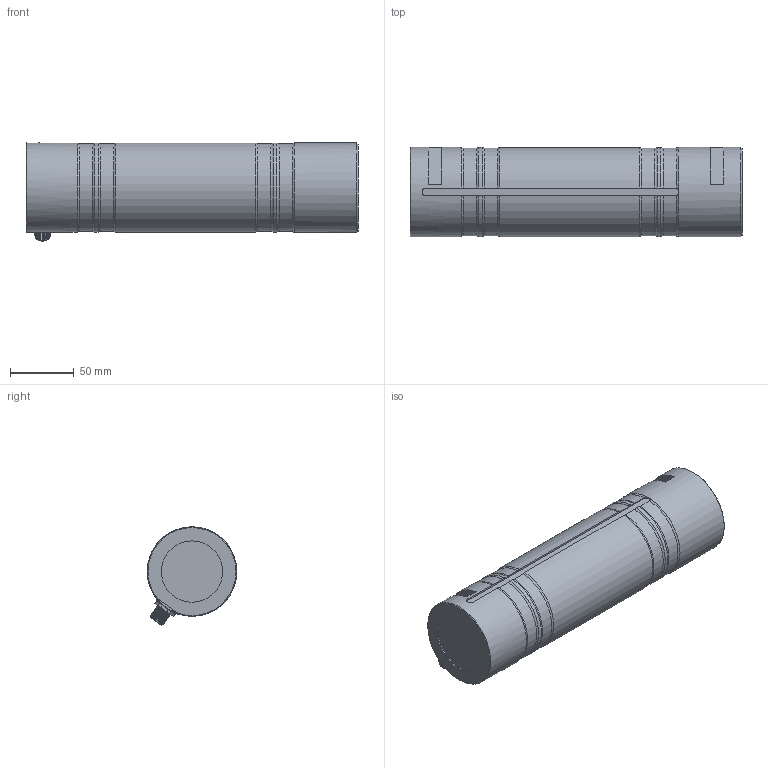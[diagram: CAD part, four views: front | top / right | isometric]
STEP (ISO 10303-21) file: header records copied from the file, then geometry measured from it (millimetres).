
FILE_DESCRIPTION(/* description */ ('Alibre Inc.'),/* implementation_level */ '2;1');
FILE_NAME(/* name */ 'export-14FBB247-5825-42F5-AB3A-DB1C2591BD7D',/* time_stamp */ '2020-12-09T12:39:54+01:00',/* author */ (''),/* organization */ (''),/* preprocessor_version */ 'ST-DEVELOPER v17',/* originating_system */ 'Alibre',/* authorisation */ '');
FILE_SCHEMA (('CONFIG_CONTROL_DESIGN'));
Length unit declared in the file: millimetre
Bounding box: 260 x 70 x 76.91 mm (x, y, z)
Volume: 1110262.1 mm3; surface area: 221249.2 mm2
Topology: 7 solids, 8 shells, 226 faces, 503 edges, 302 vertices
Faces by surface type: cylinder 77, cone 71, plane 60, torus 18
Full cylindrical faces by diameter (mm): 0.5 x10, 8 x2, 10 x1, 11 x1, 11.5 x1, 12 x21, 13 x2, 14.5 x1, 48 x1, 70 x2
Entity records: 5530 total; most frequent: CARTESIAN_POINT 1268, ORIENTED_EDGE 802, DIRECTION 683, EDGE_CURVE 395, EDGE_LOOP 341, FACE_BOUND 341, AXIS2_PLACEMENT_3D 316, VERTEX_POINT 288
